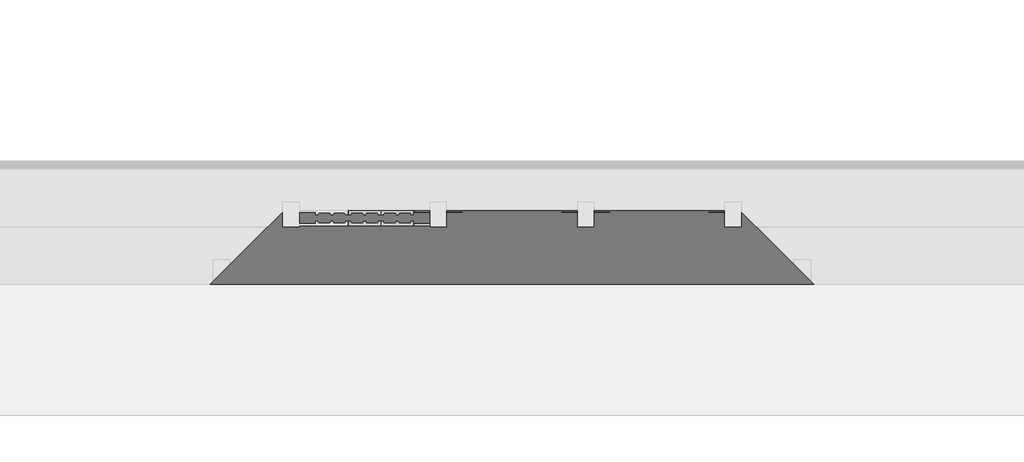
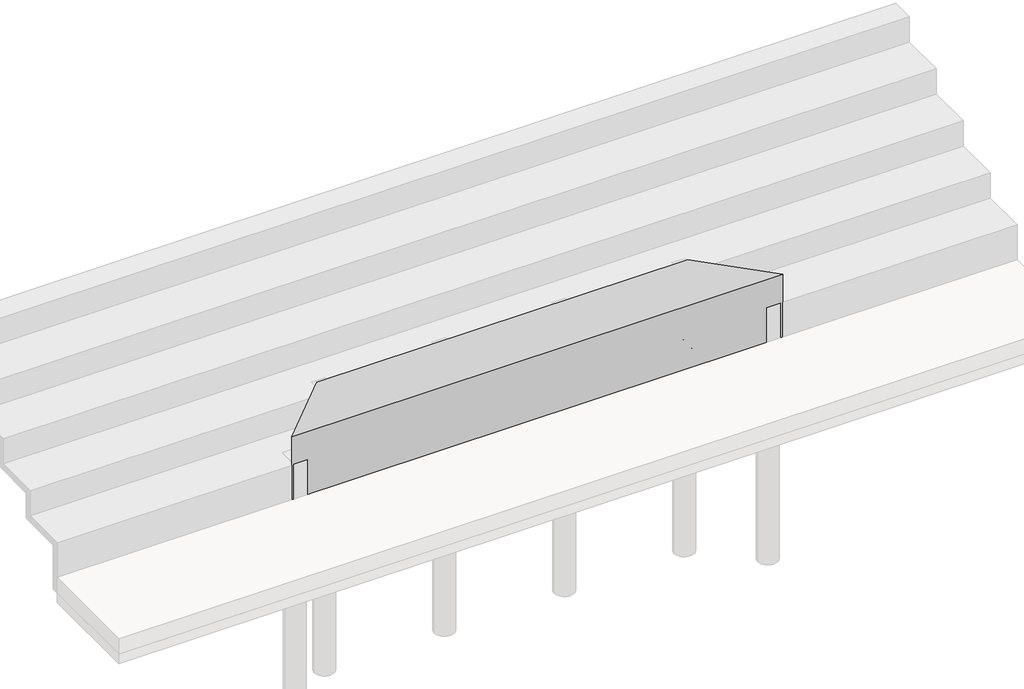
# One storey, part 2 of 3: 73 proxies.
"""IFC4 building model written with IfcOpenShell, lengths in millimetres."""

from ifc_helpers import new_model, si_unit, origin, origin_with_axes, place, context, project, spatial, polyline, outline, extrude, transform, mapped, element, save
from components import generic_models_a9bd6234, generic_models_79be39f6, generic_models_7627f778, generic_models_b0686c89, generic_models_c88a230f, generic_models_ad9f4817, bloco_de_concreto_meio_ecf0463e, bloco_de_concreto_meio_6c498778

model = new_model("IFC4")

# Units and contexts
model_context = context("Model", 3, world=origin())
ifc_project = project(units=[si_unit("LENGTHUNIT", "METRE", prefix="MILLI")], contexts=[model_context])

# Site, building, storey
site = spatial("IfcSite", under=ifc_project)
building = spatial("IfcBuilding", under=site)
storey = spatial("IfcBuildingStorey", under=building, Name="Nível 1", Elevation=0.0)

# Proxies
placement = place(None, origin())
element("IfcBuildingElementProxy", 1, Name="Modelos genéricos 1 : Modelos genéricos 1", ObjectType="Modelos genéricos 1 : Modelos genéricos 1", at=placement, inside=storey, context=model_context, shape_type="SweptSolid", body=[
    extrude(outline(polyline([(5627.2816225, 2540.7417523), (6527.2816225, 1640.7417523), (-838.0461367, 1640.7417523), (61.1384588, 2540.7417523), (5627.2816225, 2540.7417523)])), origin_with_axes(), (0.0, 0.0, 1.0), 1250.0),
])
generic_models_shape = generic_models_a9bd6234(model_context)
element("IfcBuildingElementProxy", 2, Name="Bloco de Concreto - Meia Canaleta : Família 20 x 40 - Classe A", ObjectType="Bloco de Concreto - Meia Canaleta : Família 20 x 40 - Classe A", at=placement, inside=storey, context=model_context, shape_type="MappedRepresentation", body=[
    mapped(generic_models_shape, transform((1744.5531607, 2445.7417523, 1010.0), x_axis=(-1.0, 0.0, 0.0), y_axis=(0.0, -1.0, 0.0), z_axis=(0.0, 0.0, 1.0))),
])
element("IfcBuildingElementProxy", 3, Name="Bloco de Concreto - Meia Canaleta : Família 20 x 40 - Classe A", ObjectType="Bloco de Concreto - Meia Canaleta : Família 20 x 40 - Classe A", at=placement, inside=storey, context=model_context, shape_type="MappedRepresentation", body=[
    mapped(generic_models_shape, transform((3944.5531607, 2445.7417523, 1010.0), x_axis=(-1.0, 0.0, 0.0), y_axis=(0.0, -1.0, 0.0), z_axis=(0.0, 0.0, 1.0))),
])
element("IfcBuildingElementProxy", 4, Name="Bloco de Concreto - Meia Canaleta : Família 20 x 40 - Classe A", ObjectType="Bloco de Concreto - Meia Canaleta : Família 20 x 40 - Classe A", at=placement, inside=storey, context=model_context, shape_type="MappedRepresentation", body=[
    mapped(generic_models_shape, transform((5344.5531607, 2445.7417523, 1010.0), x_axis=(-1.0, 0.0, 0.0), y_axis=(0.0, -1.0, 0.0), z_axis=(0.0, 0.0, 1.0))),
])
generic_models_2_shape = generic_models_79be39f6(model_context)
element("IfcBuildingElementProxy", 5, Name="Bloco de Concreto - Inteiro : Família 20 x 40 - Classe A", ObjectType="Bloco de Concreto - Inteiro : Família 20 x 40 - Classe A", at=placement, inside=storey, context=model_context, shape_type="MappedRepresentation", body=[
    mapped(generic_models_2_shape, transform((4044.5531607, 2445.7417523, 10.0), x_axis=(1.0, 0.0, 0.0), y_axis=(0.0, 1.0, 0.0), z_axis=(0.0, 0.0, 1.0))),
])
element("IfcBuildingElementProxy", 6, Name="Bloco de Concreto - Inteiro : Família 20 x 40 - Classe A", ObjectType="Bloco de Concreto - Inteiro : Família 20 x 40 - Classe A", at=placement, inside=storey, context=model_context, shape_type="MappedRepresentation", body=[
    mapped(generic_models_2_shape, transform((4444.5531607, 2445.7417523, 10.0), x_axis=(1.0, 0.0, 0.0), y_axis=(0.0, 1.0, 0.0), z_axis=(0.0, 0.0, 1.0))),
])
element("IfcBuildingElementProxy", 7, Name="Bloco de Concreto - Inteiro : Família 20 x 40 - Classe A", ObjectType="Bloco de Concreto - Inteiro : Família 20 x 40 - Classe A", at=placement, inside=storey, context=model_context, shape_type="MappedRepresentation", body=[
    mapped(generic_models_2_shape, transform((4844.5531607, 2445.7417523, 10.0), x_axis=(1.0, 0.0, 0.0), y_axis=(0.0, 1.0, 0.0), z_axis=(0.0, 0.0, 1.0))),
])
element("IfcBuildingElementProxy", 8, Name="Bloco de Concreto - Inteiro : Família 20 x 40 - Classe A", ObjectType="Bloco de Concreto - Inteiro : Família 20 x 40 - Classe A", at=placement, inside=storey, context=model_context, shape_type="MappedRepresentation", body=[
    mapped(generic_models_2_shape, transform((5244.5531607, 2445.7417523, 10.0), x_axis=(1.0, 0.0, 0.0), y_axis=(0.0, 1.0, 0.0), z_axis=(0.0, 0.0, 1.0))),
])
element("IfcBuildingElementProxy", 9, Name="Bloco de Concreto - Inteiro : Família 20 x 40 - Classe A", ObjectType="Bloco de Concreto - Inteiro : Família 20 x 40 - Classe A", at=placement, inside=storey, context=model_context, shape_type="MappedRepresentation", body=[
    mapped(generic_models_2_shape, transform((1044.5531607, 2445.7417523, 610.0), x_axis=(1.0, 0.0, 0.0), y_axis=(0.0, 1.0, 0.0), z_axis=(0.0, 0.0, 1.0))),
])
element("IfcBuildingElementProxy", 10, Name="Bloco de Concreto - Inteiro : Família 20 x 40 - Classe A", ObjectType="Bloco de Concreto - Inteiro : Família 20 x 40 - Classe A", at=placement, inside=storey, context=model_context, shape_type="MappedRepresentation", body=[
    mapped(generic_models_2_shape, transform((1444.5531607, 2445.7417523, 610.0), x_axis=(1.0, 0.0, 0.0), y_axis=(0.0, 1.0, 0.0), z_axis=(0.0, 0.0, 1.0))),
])
element("IfcBuildingElementProxy", 11, Name="Bloco de Concreto - Inteiro : Família 20 x 40 - Classe A", ObjectType="Bloco de Concreto - Inteiro : Família 20 x 40 - Classe A", at=placement, inside=storey, context=model_context, shape_type="MappedRepresentation", body=[
    mapped(generic_models_2_shape, transform((1244.5531607, 2445.7417523, 810.0), x_axis=(1.0, 0.0, 0.0), y_axis=(0.0, 1.0, 0.0), z_axis=(0.0, 0.0, 1.0))),
])
element("IfcBuildingElementProxy", 12, Name="Bloco de Concreto - Inteiro : Família 20 x 40 - Classe A", ObjectType="Bloco de Concreto - Inteiro : Família 20 x 40 - Classe A", at=placement, inside=storey, context=model_context, shape_type="MappedRepresentation", body=[
    mapped(generic_models_2_shape, transform((1644.5531607, 2445.7417523, 810.0), x_axis=(1.0, 0.0, 0.0), y_axis=(0.0, 1.0, 0.0), z_axis=(0.0, 0.0, 1.0))),
])
element("IfcBuildingElementProxy", 13, Name="Bloco de Concreto - Inteiro : Família 20 x 40 - Classe A", ObjectType="Bloco de Concreto - Inteiro : Família 20 x 40 - Classe A", at=placement, inside=storey, context=model_context, shape_type="MappedRepresentation", body=[
    mapped(generic_models_2_shape, transform((4244.5531607, 2445.7417523, 210.0), x_axis=(1.0, 0.0, 0.0), y_axis=(0.0, 1.0, 0.0), z_axis=(0.0, 0.0, 1.0))),
])
element("IfcBuildingElementProxy", 14, Name="Bloco de Concreto - Inteiro : Família 20 x 40 - Classe A", ObjectType="Bloco de Concreto - Inteiro : Família 20 x 40 - Classe A", at=placement, inside=storey, context=model_context, shape_type="MappedRepresentation", body=[
    mapped(generic_models_2_shape, transform((4644.5531607, 2445.7417523, 210.0), x_axis=(1.0, 0.0, 0.0), y_axis=(0.0, 1.0, 0.0), z_axis=(0.0, 0.0, 1.0))),
])
element("IfcBuildingElementProxy", 15, Name="Bloco de Concreto - Inteiro : Família 20 x 40 - Classe A", ObjectType="Bloco de Concreto - Inteiro : Família 20 x 40 - Classe A", at=placement, inside=storey, context=model_context, shape_type="MappedRepresentation", body=[
    mapped(generic_models_2_shape, transform((5044.5531607, 2445.7417523, 210.0), x_axis=(1.0, 0.0, 0.0), y_axis=(0.0, 1.0, 0.0), z_axis=(0.0, 0.0, 1.0))),
])
element("IfcBuildingElementProxy", 16, Name="Bloco de Concreto - Inteiro : Família 20 x 40 - Classe A", ObjectType="Bloco de Concreto - Inteiro : Família 20 x 40 - Classe A", at=placement, inside=storey, context=model_context, shape_type="MappedRepresentation", body=[
    mapped(generic_models_2_shape, transform((4244.5531607, 2445.7417523, 610.0), x_axis=(1.0, 0.0, 0.0), y_axis=(0.0, 1.0, 0.0), z_axis=(0.0, 0.0, 1.0))),
])
element("IfcBuildingElementProxy", 17, Name="Bloco de Concreto - Inteiro : Família 20 x 40 - Classe A", ObjectType="Bloco de Concreto - Inteiro : Família 20 x 40 - Classe A", at=placement, inside=storey, context=model_context, shape_type="MappedRepresentation", body=[
    mapped(generic_models_2_shape, transform((4644.5531607, 2445.7417523, 610.0), x_axis=(1.0, 0.0, 0.0), y_axis=(0.0, 1.0, 0.0), z_axis=(0.0, 0.0, 1.0))),
])
element("IfcBuildingElementProxy", 18, Name="Bloco de Concreto - Inteiro : Família 20 x 40 - Classe A", ObjectType="Bloco de Concreto - Inteiro : Família 20 x 40 - Classe A", at=placement, inside=storey, context=model_context, shape_type="MappedRepresentation", body=[
    mapped(generic_models_2_shape, transform((5044.5531607, 2445.7417523, 610.0), x_axis=(1.0, 0.0, 0.0), y_axis=(0.0, 1.0, 0.0), z_axis=(0.0, 0.0, 1.0))),
])
element("IfcBuildingElementProxy", 19, Name="Bloco de Concreto - Inteiro : Família 20 x 40 - Classe A", ObjectType="Bloco de Concreto - Inteiro : Família 20 x 40 - Classe A", at=placement, inside=storey, context=model_context, shape_type="MappedRepresentation", body=[
    mapped(generic_models_2_shape, transform((4044.5531607, 2445.7417523, 810.0), x_axis=(1.0, 0.0, 0.0), y_axis=(0.0, 1.0, 0.0), z_axis=(0.0, 0.0, 1.0))),
])
element("IfcBuildingElementProxy", 20, Name="Bloco de Concreto - Inteiro : Família 20 x 40 - Classe A", ObjectType="Bloco de Concreto - Inteiro : Família 20 x 40 - Classe A", at=placement, inside=storey, context=model_context, shape_type="MappedRepresentation", body=[
    mapped(generic_models_2_shape, transform((4444.5531607, 2445.7417523, 810.0), x_axis=(1.0, 0.0, 0.0), y_axis=(0.0, 1.0, 0.0), z_axis=(0.0, 0.0, 1.0))),
])
element("IfcBuildingElementProxy", 21, Name="Bloco de Concreto - Inteiro : Família 20 x 40 - Classe A", ObjectType="Bloco de Concreto - Inteiro : Família 20 x 40 - Classe A", at=placement, inside=storey, context=model_context, shape_type="MappedRepresentation", body=[
    mapped(generic_models_2_shape, transform((4844.5531607, 2445.7417523, 810.0), x_axis=(1.0, 0.0, 0.0), y_axis=(0.0, 1.0, 0.0), z_axis=(0.0, 0.0, 1.0))),
])
element("IfcBuildingElementProxy", 22, Name="Bloco de Concreto - Inteiro : Família 20 x 40 - Classe A", ObjectType="Bloco de Concreto - Inteiro : Família 20 x 40 - Classe A", at=placement, inside=storey, context=model_context, shape_type="MappedRepresentation", body=[
    mapped(generic_models_2_shape, transform((5244.5531607, 2445.7417523, 810.0), x_axis=(1.0, 0.0, 0.0), y_axis=(0.0, 1.0, 0.0), z_axis=(0.0, 0.0, 1.0))),
])
generic_models_3_shape = generic_models_7627f778(model_context)
element("IfcBuildingElementProxy", 23, Name="Bloco de Concreto - Canaleta Inteira : Família 20 x 40 - Classe A", ObjectType="Bloco de Concreto - Canaleta Inteira : Família 20 x 40 - Classe A", at=placement, inside=storey, context=model_context, shape_type="MappedRepresentation", body=[
    mapped(generic_models_3_shape, transform((1044.5531607, 2445.7417523, 1010.0), x_axis=(1.0, 0.0, 0.0), y_axis=(0.0, 1.0, 0.0), z_axis=(0.0, 0.0, 1.0))),
])
element("IfcBuildingElementProxy", 24, Name="Bloco de Concreto - Canaleta Inteira : Família 20 x 40 - Classe A", ObjectType="Bloco de Concreto - Canaleta Inteira : Família 20 x 40 - Classe A", at=placement, inside=storey, context=model_context, shape_type="MappedRepresentation", body=[
    mapped(generic_models_3_shape, transform((1444.5531607, 2445.7417523, 1010.0), x_axis=(1.0, 0.0, 0.0), y_axis=(0.0, 1.0, 0.0), z_axis=(0.0, 0.0, 1.0))),
])
element("IfcBuildingElementProxy", 25, Name="Bloco de Concreto - Canaleta Inteira : Família 20 x 40 - Classe A", ObjectType="Bloco de Concreto - Canaleta Inteira : Família 20 x 40 - Classe A", at=placement, inside=storey, context=model_context, shape_type="MappedRepresentation", body=[
    mapped(generic_models_3_shape, transform((4044.5531607, 2445.7417523, 410.0), x_axis=(1.0, 0.0, 0.0), y_axis=(0.0, 1.0, 0.0), z_axis=(0.0, 0.0, 1.0))),
])
element("IfcBuildingElementProxy", 26, Name="Bloco de Concreto - Canaleta Inteira : Família 20 x 40 - Classe A", ObjectType="Bloco de Concreto - Canaleta Inteira : Família 20 x 40 - Classe A", at=placement, inside=storey, context=model_context, shape_type="MappedRepresentation", body=[
    mapped(generic_models_3_shape, transform((4444.5531607, 2445.7417523, 410.0), x_axis=(1.0, 0.0, 0.0), y_axis=(0.0, 1.0, 0.0), z_axis=(0.0, 0.0, 1.0))),
])
element("IfcBuildingElementProxy", 27, Name="Bloco de Concreto - Canaleta Inteira : Família 20 x 40 - Classe A", ObjectType="Bloco de Concreto - Canaleta Inteira : Família 20 x 40 - Classe A", at=placement, inside=storey, context=model_context, shape_type="MappedRepresentation", body=[
    mapped(generic_models_3_shape, transform((4844.5531607, 2445.7417523, 410.0), x_axis=(1.0, 0.0, 0.0), y_axis=(0.0, 1.0, 0.0), z_axis=(0.0, 0.0, 1.0))),
])
element("IfcBuildingElementProxy", 28, Name="Bloco de Concreto - Canaleta Inteira : Família 20 x 40 - Classe A", ObjectType="Bloco de Concreto - Canaleta Inteira : Família 20 x 40 - Classe A", at=placement, inside=storey, context=model_context, shape_type="MappedRepresentation", body=[
    mapped(generic_models_3_shape, transform((5244.5531607, 2445.7417523, 410.0), x_axis=(1.0, 0.0, 0.0), y_axis=(0.0, 1.0, 0.0), z_axis=(0.0, 0.0, 1.0))),
])
element("IfcBuildingElementProxy", 29, Name="Bloco de Concreto - Canaleta Inteira : Família 20 x 40 - Classe A", ObjectType="Bloco de Concreto - Canaleta Inteira : Família 20 x 40 - Classe A", at=placement, inside=storey, context=model_context, shape_type="MappedRepresentation", body=[
    mapped(generic_models_3_shape, transform((4244.5531607, 2445.7417523, 1010.0), x_axis=(1.0, 0.0, 0.0), y_axis=(0.0, 1.0, 0.0), z_axis=(0.0, 0.0, 1.0))),
])
element("IfcBuildingElementProxy", 30, Name="Bloco de Concreto - Canaleta Inteira : Família 20 x 40 - Classe A", ObjectType="Bloco de Concreto - Canaleta Inteira : Família 20 x 40 - Classe A", at=placement, inside=storey, context=model_context, shape_type="MappedRepresentation", body=[
    mapped(generic_models_3_shape, transform((4644.5531607, 2445.7417523, 1010.0), x_axis=(1.0, 0.0, 0.0), y_axis=(0.0, 1.0, 0.0), z_axis=(0.0, 0.0, 1.0))),
])
element("IfcBuildingElementProxy", 31, Name="Bloco de Concreto - Canaleta Inteira : Família 20 x 40 - Classe A", ObjectType="Bloco de Concreto - Canaleta Inteira : Família 20 x 40 - Classe A", at=placement, inside=storey, context=model_context, shape_type="MappedRepresentation", body=[
    mapped(generic_models_3_shape, transform((5044.5531607, 2445.7417523, 1010.0), x_axis=(1.0, 0.0, 0.0), y_axis=(0.0, 1.0, 0.0), z_axis=(0.0, 0.0, 1.0))),
])
generic_models_4_shape = generic_models_b0686c89(model_context)
element("IfcBuildingElementProxy", 32, Name="Bloco de Concreto - Inteiro : Família 20 x 40 - Classe A", ObjectType="Bloco de Concreto - Inteiro : Família 20 x 40 - Classe A", at=placement, inside=storey, context=model_context, shape_type="MappedRepresentation", body=[
    mapped(generic_models_4_shape, transform((3444.5531607, 2445.7417523, 10.0), x_axis=(-1.0, 0.0, 0.0), y_axis=(0.0, -1.0, 0.0), z_axis=(0.0, 0.0, 1.0))),
])
element("IfcBuildingElementProxy", 33, Name="Bloco de Concreto - Inteiro : Família 20 x 40 - Classe A", ObjectType="Bloco de Concreto - Inteiro : Família 20 x 40 - Classe A", at=placement, inside=storey, context=model_context, shape_type="MappedRepresentation", body=[
    mapped(generic_models_4_shape, transform((3044.5531607, 2445.7417523, 10.0), x_axis=(-1.0, 0.0, 0.0), y_axis=(0.0, -1.0, 0.0), z_axis=(0.0, 0.0, 1.0))),
])
element("IfcBuildingElementProxy", 34, Name="Bloco de Concreto - Inteiro : Família 20 x 40 - Classe A", ObjectType="Bloco de Concreto - Inteiro : Família 20 x 40 - Classe A", at=placement, inside=storey, context=model_context, shape_type="MappedRepresentation", body=[
    mapped(generic_models_4_shape, transform((2644.5531607, 2445.7417523, 10.0), x_axis=(-1.0, 0.0, 0.0), y_axis=(0.0, -1.0, 0.0), z_axis=(0.0, 0.0, 1.0))),
])
element("IfcBuildingElementProxy", 35, Name="Bloco de Concreto - Inteiro : Família 20 x 40 - Classe A", ObjectType="Bloco de Concreto - Inteiro : Família 20 x 40 - Classe A", at=placement, inside=storey, context=model_context, shape_type="MappedRepresentation", body=[
    mapped(generic_models_4_shape, transform((2244.5531607, 2445.7417523, 10.0), x_axis=(-1.0, 0.0, 0.0), y_axis=(0.0, -1.0, 0.0), z_axis=(0.0, 0.0, 1.0))),
])
element("IfcBuildingElementProxy", 36, Name="Bloco de Concreto - Inteiro : Família 20 x 40 - Classe A", ObjectType="Bloco de Concreto - Inteiro : Família 20 x 40 - Classe A", at=placement, inside=storey, context=model_context, shape_type="MappedRepresentation", body=[
    mapped(generic_models_4_shape, transform((5809.1475834, 2221.9927909, 10.0), x_axis=(-0.7067862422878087, 0.7074271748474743, 0.0), y_axis=(-0.7074271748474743, -0.7067862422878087, 0.0), z_axis=(0.0, 0.0, 1.0))),
])
element("IfcBuildingElementProxy", 37, Name="Bloco de Concreto - Inteiro : Família 20 x 40 - Classe A", ObjectType="Bloco de Concreto - Inteiro : Família 20 x 40 - Classe A", at=placement, inside=storey, context=model_context, shape_type="MappedRepresentation", body=[
    mapped(generic_models_4_shape, transform((3244.5531607, 2445.7417523, 210.0), x_axis=(-1.0, 0.0, 0.0), y_axis=(0.0, -1.0, 0.0), z_axis=(0.0, 0.0, 1.0))),
])
element("IfcBuildingElementProxy", 38, Name="Bloco de Concreto - Inteiro : Família 20 x 40 - Classe A", ObjectType="Bloco de Concreto - Inteiro : Família 20 x 40 - Classe A", at=placement, inside=storey, context=model_context, shape_type="MappedRepresentation", body=[
    mapped(generic_models_4_shape, transform((2844.5531607, 2445.7417523, 210.0), x_axis=(-1.0, 0.0, 0.0), y_axis=(0.0, -1.0, 0.0), z_axis=(0.0, 0.0, 1.0))),
])
element("IfcBuildingElementProxy", 39, Name="Bloco de Concreto - Inteiro : Família 20 x 40 - Classe A", ObjectType="Bloco de Concreto - Inteiro : Família 20 x 40 - Classe A", at=placement, inside=storey, context=model_context, shape_type="MappedRepresentation", body=[
    mapped(generic_models_4_shape, transform((2444.5531607, 2445.7417523, 210.0), x_axis=(-1.0, 0.0, 0.0), y_axis=(0.0, -1.0, 0.0), z_axis=(0.0, 0.0, 1.0))),
])
element("IfcBuildingElementProxy", 40, Name="Bloco de Concreto - Inteiro : Família 20 x 40 - Classe A", ObjectType="Bloco de Concreto - Inteiro : Família 20 x 40 - Classe A", at=placement, inside=storey, context=model_context, shape_type="MappedRepresentation", body=[
    mapped(generic_models_4_shape, transform((3244.5531607, 2445.7417523, 610.0), x_axis=(-1.0, 0.0, 0.0), y_axis=(0.0, -1.0, 0.0), z_axis=(0.0, 0.0, 1.0))),
])
element("IfcBuildingElementProxy", 41, Name="Bloco de Concreto - Inteiro : Família 20 x 40 - Classe A", ObjectType="Bloco de Concreto - Inteiro : Família 20 x 40 - Classe A", at=placement, inside=storey, context=model_context, shape_type="MappedRepresentation", body=[
    mapped(generic_models_4_shape, transform((2844.5531607, 2445.7417523, 610.0), x_axis=(-1.0, 0.0, 0.0), y_axis=(0.0, -1.0, 0.0), z_axis=(0.0, 0.0, 1.0))),
])
element("IfcBuildingElementProxy", 42, Name="Bloco de Concreto - Inteiro : Família 20 x 40 - Classe A", ObjectType="Bloco de Concreto - Inteiro : Família 20 x 40 - Classe A", at=placement, inside=storey, context=model_context, shape_type="MappedRepresentation", body=[
    mapped(generic_models_4_shape, transform((2444.5531607, 2445.7417523, 610.0), x_axis=(-1.0, 0.0, 0.0), y_axis=(0.0, -1.0, 0.0), z_axis=(0.0, 0.0, 1.0))),
])
element("IfcBuildingElementProxy", 43, Name="Bloco de Concreto - Inteiro : Família 20 x 40 - Classe A", ObjectType="Bloco de Concreto - Inteiro : Família 20 x 40 - Classe A", at=placement, inside=storey, context=model_context, shape_type="MappedRepresentation", body=[
    mapped(generic_models_4_shape, transform((3444.5531607, 2445.7417523, 810.0), x_axis=(-1.0, 0.0, 0.0), y_axis=(0.0, -1.0, 0.0), z_axis=(0.0, 0.0, 1.0))),
])
element("IfcBuildingElementProxy", 44, Name="Bloco de Concreto - Inteiro : Família 20 x 40 - Classe A", ObjectType="Bloco de Concreto - Inteiro : Família 20 x 40 - Classe A", at=placement, inside=storey, context=model_context, shape_type="MappedRepresentation", body=[
    mapped(generic_models_4_shape, transform((3044.5531607, 2445.7417523, 810.0), x_axis=(-1.0, 0.0, 0.0), y_axis=(0.0, -1.0, 0.0), z_axis=(0.0, 0.0, 1.0))),
])
element("IfcBuildingElementProxy", 45, Name="Bloco de Concreto - Inteiro : Família 20 x 40 - Classe A", ObjectType="Bloco de Concreto - Inteiro : Família 20 x 40 - Classe A", at=placement, inside=storey, context=model_context, shape_type="MappedRepresentation", body=[
    mapped(generic_models_4_shape, transform((2644.5531607, 2445.7417523, 810.0), x_axis=(-1.0, 0.0, 0.0), y_axis=(0.0, -1.0, 0.0), z_axis=(0.0, 0.0, 1.0))),
])
element("IfcBuildingElementProxy", 46, Name="Bloco de Concreto - Inteiro : Família 20 x 40 - Classe A", ObjectType="Bloco de Concreto - Inteiro : Família 20 x 40 - Classe A", at=placement, inside=storey, context=model_context, shape_type="MappedRepresentation", body=[
    mapped(generic_models_4_shape, transform((2244.5531607, 2445.7417523, 810.0), x_axis=(-1.0, 0.0, 0.0), y_axis=(0.0, -1.0, 0.0), z_axis=(0.0, 0.0, 1.0))),
])
element("IfcBuildingElementProxy", 47, Name="Bloco de Concreto - Inteiro : Família 20 x 40 - Classe A", ObjectType="Bloco de Concreto - Inteiro : Família 20 x 40 - Classe A", at=placement, inside=storey, context=model_context, shape_type="MappedRepresentation", body=[
    mapped(generic_models_4_shape, transform((6086.7075581, 1944.1811174, 10.0), x_axis=(-0.706786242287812, 0.7074271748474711, 0.0), y_axis=(-0.7074271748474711, -0.706786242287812, 0.0), z_axis=(0.0, 0.0, 1.0))),
])
element("IfcBuildingElementProxy", 48, Name="Bloco de Concreto - Inteiro : Família 20 x 40 - Classe A", ObjectType="Bloco de Concreto - Inteiro : Família 20 x 40 - Classe A", at=placement, inside=storey, context=model_context, shape_type="MappedRepresentation", body=[
    mapped(generic_models_4_shape, transform((5945.2541262, 2085.570456, 210.0), x_axis=(0.7067862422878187, -0.7074271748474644, 0.0), y_axis=(0.7074271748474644, 0.7067862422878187, 0.0), z_axis=(0.0, 0.0, 1.0))),
])
element("IfcBuildingElementProxy", 49, Name="Bloco de Concreto - Inteiro : Família 20 x 40 - Classe A", ObjectType="Bloco de Concreto - Inteiro : Família 20 x 40 - Classe A", at=placement, inside=storey, context=model_context, shape_type="MappedRepresentation", body=[
    mapped(generic_models_4_shape, transform((5807.4003796, 2223.488296, 410.0), x_axis=(-0.706786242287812, 0.7074271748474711, 0.0), y_axis=(-0.7074271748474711, -0.706786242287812, 0.0), z_axis=(0.0, 0.0, 1.0))),
])
element("IfcBuildingElementProxy", 50, Name="Bloco de Concreto - Inteiro : Família 20 x 40 - Classe A", ObjectType="Bloco de Concreto - Inteiro : Família 20 x 40 - Classe A", at=placement, inside=storey, context=model_context, shape_type="MappedRepresentation", body=[
    mapped(generic_models_4_shape, transform((6086.7075581, 1944.1811174, 410.0), x_axis=(-0.706786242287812, 0.7074271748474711, 0.0), y_axis=(-0.7074271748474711, -0.706786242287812, 0.0), z_axis=(0.0, 0.0, 1.0))),
])
generic_models_5_shape = generic_models_c88a230f(model_context)
element("IfcBuildingElementProxy", 51, Name="Bloco de Concreto - Meia Canaleta : Família 20 x 40 - Classe A", ObjectType="Bloco de Concreto - Meia Canaleta : Família 20 x 40 - Classe A", at=placement, inside=storey, context=model_context, shape_type="MappedRepresentation", body=[
    mapped(generic_models_5_shape, transform((3544.5531607, 2445.7417523, 1010.0), x_axis=(1.0, 0.0, 0.0), y_axis=(0.0, 1.0, 0.0), z_axis=(0.0, 0.0, 1.0))),
])
element("IfcBuildingElementProxy", 52, Name="Bloco de Concreto - Meia Canaleta : Família 20 x 40 - Classe A", ObjectType="Bloco de Concreto - Meia Canaleta : Família 20 x 40 - Classe A", at=placement, inside=storey, context=model_context, shape_type="MappedRepresentation", body=[
    mapped(generic_models_5_shape, transform((2144.5531607, 2445.7417523, 1010.0), x_axis=(1.0, 0.0, 0.0), y_axis=(0.0, 1.0, 0.0), z_axis=(0.0, 0.0, 1.0))),
])
element("IfcBuildingElementProxy", 53, Name="Bloco de Concreto - Meia Canaleta : Família 20 x 40 - Classe A", ObjectType="Bloco de Concreto - Meia Canaleta : Família 20 x 40 - Classe A", at=placement, inside=storey, context=model_context, shape_type="MappedRepresentation", body=[
    mapped(generic_models_5_shape, transform((5736.7217553, 2294.2310134, 610.0), x_axis=(0.7067862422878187, -0.7074271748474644, 0.0), y_axis=(0.7074271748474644, 0.7067862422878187, 0.0), z_axis=(0.0, 0.0, 1.0))),
])
element("IfcBuildingElementProxy", 54, Name="Bloco de Concreto - Meia Canaleta : Família 20 x 40 - Classe A", ObjectType="Bloco de Concreto - Meia Canaleta : Família 20 x 40 - Classe A", at=placement, inside=storey, context=model_context, shape_type="MappedRepresentation", body=[
    mapped(generic_models_5_shape, transform((6157.3861824, 1873.4383999, 610.0), x_axis=(0.7067862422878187, -0.7074271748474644, 0.0), y_axis=(0.7074271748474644, 0.7067862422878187, 0.0), z_axis=(0.0, 0.0, 1.0))),
])
generic_models_6_shape = generic_models_ad9f4817(model_context)
element("IfcBuildingElementProxy", 55, Name="Bloco de Concreto - Canaleta Inteira : Família 20 x 40 - Classe A", ObjectType="Bloco de Concreto - Canaleta Inteira : Família 20 x 40 - Classe A", at=placement, inside=storey, context=model_context, shape_type="MappedRepresentation", body=[
    mapped(generic_models_6_shape, transform((3444.5531607, 2445.7417523, 410.0), x_axis=(-1.0, 0.0, 0.0), y_axis=(0.0, -1.0, 0.0), z_axis=(0.0, 0.0, 1.0))),
])
element("IfcBuildingElementProxy", 56, Name="Bloco de Concreto - Canaleta Inteira : Família 20 x 40 - Classe A", ObjectType="Bloco de Concreto - Canaleta Inteira : Família 20 x 40 - Classe A", at=placement, inside=storey, context=model_context, shape_type="MappedRepresentation", body=[
    mapped(generic_models_6_shape, transform((3044.5531607, 2445.7417523, 410.0), x_axis=(-1.0, 0.0, 0.0), y_axis=(0.0, -1.0, 0.0), z_axis=(0.0, 0.0, 1.0))),
])
element("IfcBuildingElementProxy", 57, Name="Bloco de Concreto - Canaleta Inteira : Família 20 x 40 - Classe A", ObjectType="Bloco de Concreto - Canaleta Inteira : Família 20 x 40 - Classe A", at=placement, inside=storey, context=model_context, shape_type="MappedRepresentation", body=[
    mapped(generic_models_6_shape, transform((2644.5531607, 2445.7417523, 410.0), x_axis=(-1.0, 0.0, 0.0), y_axis=(0.0, -1.0, 0.0), z_axis=(0.0, 0.0, 1.0))),
])
element("IfcBuildingElementProxy", 58, Name="Bloco de Concreto - Canaleta Inteira : Família 20 x 40 - Classe A", ObjectType="Bloco de Concreto - Canaleta Inteira : Família 20 x 40 - Classe A", at=placement, inside=storey, context=model_context, shape_type="MappedRepresentation", body=[
    mapped(generic_models_6_shape, transform((2244.5531607, 2445.7417523, 410.0), x_axis=(-1.0, 0.0, 0.0), y_axis=(0.0, -1.0, 0.0), z_axis=(0.0, 0.0, 1.0))),
])
element("IfcBuildingElementProxy", 59, Name="Bloco de Concreto - Canaleta Inteira : Família 20 x 40 - Classe A", ObjectType="Bloco de Concreto - Canaleta Inteira : Família 20 x 40 - Classe A", at=placement, inside=storey, context=model_context, shape_type="MappedRepresentation", body=[
    mapped(generic_models_6_shape, transform((3244.5531607, 2445.7417523, 1010.0), x_axis=(-1.0, 0.0, 0.0), y_axis=(0.0, -1.0, 0.0), z_axis=(0.0, 0.0, 1.0))),
])
element("IfcBuildingElementProxy", 60, Name="Bloco de Concreto - Canaleta Inteira : Família 20 x 40 - Classe A", ObjectType="Bloco de Concreto - Canaleta Inteira : Família 20 x 40 - Classe A", at=placement, inside=storey, context=model_context, shape_type="MappedRepresentation", body=[
    mapped(generic_models_6_shape, transform((2844.5531607, 2445.7417523, 1010.0), x_axis=(-1.0, 0.0, 0.0), y_axis=(0.0, -1.0, 0.0), z_axis=(0.0, 0.0, 1.0))),
])
element("IfcBuildingElementProxy", 61, Name="Bloco de Concreto - Canaleta Inteira : Família 20 x 40 - Classe A", ObjectType="Bloco de Concreto - Canaleta Inteira : Família 20 x 40 - Classe A", at=placement, inside=storey, context=model_context, shape_type="MappedRepresentation", body=[
    mapped(generic_models_6_shape, transform((2444.5531607, 2445.7417523, 1010.0), x_axis=(-1.0, 0.0, 0.0), y_axis=(0.0, -1.0, 0.0), z_axis=(0.0, 0.0, 1.0))),
])
element("IfcBuildingElementProxy", 62, Name="Bloco de Concreto - Canaleta Inteira : Família 20 x 40 - Classe A", ObjectType="Bloco de Concreto - Canaleta Inteira : Família 20 x 40 - Classe A", at=placement, inside=storey, context=model_context, shape_type="MappedRepresentation", body=[
    mapped(generic_models_6_shape, transform((5945.2541262, 2085.570456, 610.0), x_axis=(0.7067862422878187, -0.7074271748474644, 0.0), y_axis=(0.7074271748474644, 0.7067862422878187, 0.0), z_axis=(0.0, 0.0, 1.0))),
])
bloco_de_concreto_meio_shape = bloco_de_concreto_meio_ecf0463e(model_context)
element("IfcBuildingElementProxy", 63, Name="Bloco de Concreto - Meio : Família 20 x 40 - Classe A", ObjectType="Bloco de Concreto - Meio : Família 20 x 40 - Classe A", at=placement, inside=storey, context=model_context, shape_type="MappedRepresentation", body=[
    mapped(bloco_de_concreto_meio_shape, transform((1744.5531607, 2445.7417523, 610.0), x_axis=(-1.0, 0.0, 0.0), y_axis=(0.0, -1.0, 0.0), z_axis=(0.0, 0.0, 1.0))),
])
element("IfcBuildingElementProxy", 64, Name="Bloco de Concreto - Meio : Família 20 x 40 - Classe A", ObjectType="Bloco de Concreto - Meio : Família 20 x 40 - Classe A", at=placement, inside=storey, context=model_context, shape_type="MappedRepresentation", body=[
    mapped(bloco_de_concreto_meio_shape, transform((3944.5531607, 2445.7417523, 210.0), x_axis=(-1.0, 0.0, 0.0), y_axis=(0.0, -1.0, 0.0), z_axis=(0.0, 0.0, 1.0))),
])
element("IfcBuildingElementProxy", 65, Name="Bloco de Concreto - Meio : Família 20 x 40 - Classe A", ObjectType="Bloco de Concreto - Meio : Família 20 x 40 - Classe A", at=placement, inside=storey, context=model_context, shape_type="MappedRepresentation", body=[
    mapped(bloco_de_concreto_meio_shape, transform((5344.5531607, 2445.7417523, 210.0), x_axis=(-1.0, 0.0, 0.0), y_axis=(0.0, -1.0, 0.0), z_axis=(0.0, 0.0, 1.0))),
])
element("IfcBuildingElementProxy", 66, Name="Bloco de Concreto - Meio : Família 20 x 40 - Classe A", ObjectType="Bloco de Concreto - Meio : Família 20 x 40 - Classe A", at=placement, inside=storey, context=model_context, shape_type="MappedRepresentation", body=[
    mapped(bloco_de_concreto_meio_shape, transform((3944.5531607, 2445.7417523, 610.0), x_axis=(-1.0, 0.0, 0.0), y_axis=(0.0, -1.0, 0.0), z_axis=(0.0, 0.0, 1.0))),
])
element("IfcBuildingElementProxy", 67, Name="Bloco de Concreto - Meio : Família 20 x 40 - Classe A", ObjectType="Bloco de Concreto - Meio : Família 20 x 40 - Classe A", at=placement, inside=storey, context=model_context, shape_type="MappedRepresentation", body=[
    mapped(bloco_de_concreto_meio_shape, transform((5344.5531607, 2445.7417523, 610.0), x_axis=(-1.0, 0.0, 0.0), y_axis=(0.0, -1.0, 0.0), z_axis=(0.0, 0.0, 1.0))),
])
bloco_de_concreto_meio_2_shape = bloco_de_concreto_meio_6c498778(model_context)
element("IfcBuildingElementProxy", 68, Name="Bloco de Concreto - Meio : Família 20 x 40 - Classe A", ObjectType="Bloco de Concreto - Meio : Família 20 x 40 - Classe A", at=placement, inside=storey, context=model_context, shape_type="MappedRepresentation", body=[
    mapped(bloco_de_concreto_meio_2_shape, transform((3544.5531607, 2445.7417523, 210.0), x_axis=(1.0, 0.0, 0.0), y_axis=(0.0, 1.0, 0.0), z_axis=(0.0, 0.0, 1.0))),
])
element("IfcBuildingElementProxy", 69, Name="Bloco de Concreto - Meio : Família 20 x 40 - Classe A", ObjectType="Bloco de Concreto - Meio : Família 20 x 40 - Classe A", at=placement, inside=storey, context=model_context, shape_type="MappedRepresentation", body=[
    mapped(bloco_de_concreto_meio_2_shape, transform((2144.5531607, 2445.7417523, 210.0), x_axis=(1.0, 0.0, 0.0), y_axis=(0.0, 1.0, 0.0), z_axis=(0.0, 0.0, 1.0))),
])
element("IfcBuildingElementProxy", 70, Name="Bloco de Concreto - Meio : Família 20 x 40 - Classe A", ObjectType="Bloco de Concreto - Meio : Família 20 x 40 - Classe A", at=placement, inside=storey, context=model_context, shape_type="MappedRepresentation", body=[
    mapped(bloco_de_concreto_meio_2_shape, transform((3544.5531607, 2445.7417523, 610.0), x_axis=(1.0, 0.0, 0.0), y_axis=(0.0, 1.0, 0.0), z_axis=(0.0, 0.0, 1.0))),
])
element("IfcBuildingElementProxy", 71, Name="Bloco de Concreto - Meio : Família 20 x 40 - Classe A", ObjectType="Bloco de Concreto - Meio : Família 20 x 40 - Classe A", at=placement, inside=storey, context=model_context, shape_type="MappedRepresentation", body=[
    mapped(bloco_de_concreto_meio_2_shape, transform((2144.5531607, 2445.7417523, 610.0), x_axis=(1.0, 0.0, 0.0), y_axis=(0.0, 1.0, 0.0), z_axis=(0.0, 0.0, 1.0))),
])
element("IfcBuildingElementProxy", 72, Name="Bloco de Concreto - Meio : Família 20 x 40 - Classe A", ObjectType="Bloco de Concreto - Meio : Família 20 x 40 - Classe A", at=placement, inside=storey, context=model_context, shape_type="MappedRepresentation", body=[
    mapped(bloco_de_concreto_meio_2_shape, transform((5736.7217553, 2294.2310134, 210.0), x_axis=(0.7067862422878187, -0.7074271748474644, 0.0), y_axis=(0.7074271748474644, 0.7067862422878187, 0.0), z_axis=(0.0, 0.0, 1.0))),
])
element("IfcBuildingElementProxy", 73, Name="Bloco de Concreto - Meio : Família 20 x 40 - Classe A", ObjectType="Bloco de Concreto - Meio : Família 20 x 40 - Classe A", at=placement, inside=storey, context=model_context, shape_type="MappedRepresentation", body=[
    mapped(bloco_de_concreto_meio_2_shape, transform((6157.3861824, 1873.4383999, 210.0), x_axis=(0.7067862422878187, -0.7074271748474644, 0.0), y_axis=(0.7074271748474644, 0.7067862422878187, 0.0), z_axis=(0.0, 0.0, 1.0))),
])

save(model, "model.ifc")
